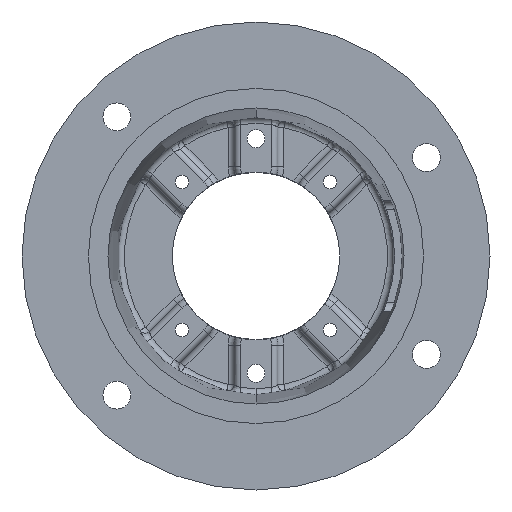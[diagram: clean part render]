
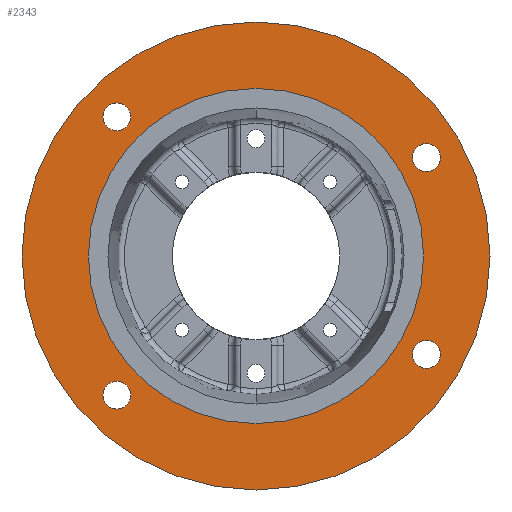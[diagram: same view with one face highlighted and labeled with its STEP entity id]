
A CAD part, front view. The second image highlights one B-rep face of the part: STEP entity #2343.
In plain terms, the highlighted planar face has unit normal (0, -1, 0).
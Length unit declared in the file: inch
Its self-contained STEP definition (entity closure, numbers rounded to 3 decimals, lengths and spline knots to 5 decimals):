
#25 = VERTEX_POINT ( 'NONE', #2248 ) ;
#189 = VERTEX_POINT ( 'NONE', #1867 ) ;
#232 = CARTESIAN_POINT ( 'NONE',  ( -3.27037, 0., -3.27037 ) ) ;
#305 = VERTEX_POINT ( 'NONE', #1171 ) ;
#375 = AXIS2_PLACEMENT_3D ( 'NONE', #10249, #3649, #11339 ) ;
#772 = DIRECTION ( 'NONE',  ( 0., 0., -1. ) ) ;
#849 = DIRECTION ( 'NONE',  ( 0., -1., 0. ) ) ;
#1156 = DIRECTION ( 'NONE',  ( 0., 0., -1. ) ) ;
#1171 = CARTESIAN_POINT ( 'NONE',  ( 4.00537, 0., -2.64063 ) ) ;
#1391 = DIRECTION ( 'NONE',  ( 0., 0., -1. ) ) ;
#1416 = AXIS2_PLACEMENT_3D ( 'NONE', #14400, #7903, #1156 ) ;
#1867 = CARTESIAN_POINT ( 'NONE',  ( 0., 0., 3.9385 ) ) ;
#2086 = VERTEX_POINT ( 'NONE', #2184 ) ;
#2184 = CARTESIAN_POINT ( 'NONE',  ( 4.00537, 0., 2.64062 ) ) ;
#2191 = EDGE_CURVE ( 'NONE', #9199, #2086, #9641, .T. ) ;
#2248 = CARTESIAN_POINT ( 'NONE',  ( 4.00537, 0., -1.98438 ) ) ;
#2300 = FACE_OUTER_BOUND ( 'NONE', #12906, .T. ) ;
#2327 = ORIENTED_EDGE ( 'NONE', *, *, #12920, .F. ) ;
#2343 = ADVANCED_FACE ( 'NONE', ( #14042, #11134, #2675, #5310, #5655, #2300 ), #10795, .F. ) ;
#2400 = CARTESIAN_POINT ( 'NONE',  ( 0., 0., -5.5 ) ) ;
#2492 = EDGE_CURVE ( 'NONE', #8942, #5468, #6866, .T. ) ;
#2675 = FACE_BOUND ( 'NONE', #13254, .T. ) ;
#2691 = CIRCLE ( 'NONE', #9012, 0.32812 ) ;
#3019 = ORIENTED_EDGE ( 'NONE', *, *, #11502, .T. ) ;
#3032 = CIRCLE ( 'NONE', #3918, 5.5 ) ;
#3107 = DIRECTION ( 'NONE',  ( 0., -1., 0. ) ) ;
#3524 = AXIS2_PLACEMENT_3D ( 'NONE', #4065, #4127, #4166 ) ;
#3649 = DIRECTION ( 'NONE',  ( 0., -1., 0. ) ) ;
#3725 = DIRECTION ( 'NONE',  ( 0., 0., -1. ) ) ;
#3819 = DIRECTION ( 'NONE',  ( 0., -1., 0. ) ) ;
#3866 = CARTESIAN_POINT ( 'NONE',  ( -3.27037, 0., 3.27037 ) ) ;
#3918 = AXIS2_PLACEMENT_3D ( 'NONE', #14058, #7537, #772 ) ;
#3943 = CARTESIAN_POINT ( 'NONE',  ( -3.27037, 0., 3.27037 ) ) ;
#3998 = AXIS2_PLACEMENT_3D ( 'NONE', #7618, #849, #8706 ) ;
#4065 = CARTESIAN_POINT ( 'NONE',  ( 4.00537, 0., 2.3125 ) ) ;
#4127 = DIRECTION ( 'NONE',  ( 0., -1., 0. ) ) ;
#4166 = DIRECTION ( 'NONE',  ( 0., 0., -1. ) ) ;
#4234 = ORIENTED_EDGE ( 'NONE', *, *, #10119, .F. ) ;
#4349 = VERTEX_POINT ( 'NONE', #14095 ) ;
#4519 = EDGE_LOOP ( 'NONE', ( #10305, #10961 ) ) ;
#4741 = AXIS2_PLACEMENT_3D ( 'NONE', #3866, #3819, #3725 ) ;
#4878 = DIRECTION ( 'NONE',  ( 0., -1., 0. ) ) ;
#4970 = CARTESIAN_POINT ( 'NONE',  ( 4.00537, 0., 1.98437 ) ) ;
#5054 = DIRECTION ( 'NONE',  ( 0., 0., -1. ) ) ;
#5199 = DIRECTION ( 'NONE',  ( 0., -1., 0. ) ) ;
#5310 = FACE_BOUND ( 'NONE', #10688, .T. ) ;
#5468 = VERTEX_POINT ( 'NONE', #13693 ) ;
#5593 = VERTEX_POINT ( 'NONE', #6244 ) ;
#5655 = FACE_BOUND ( 'NONE', #13950, .T. ) ;
#5728 = AXIS2_PLACEMENT_3D ( 'NONE', #9737, #3107, #10806 ) ;
#5797 = ORIENTED_EDGE ( 'NONE', *, *, #7189, .F. ) ;
#5855 = VERTEX_POINT ( 'NONE', #2400 ) ;
#6244 = CARTESIAN_POINT ( 'NONE',  ( 0., 0., -3.9385 ) ) ;
#6245 = EDGE_LOOP ( 'NONE', ( #8955, #4234 ) ) ;
#6429 = EDGE_CURVE ( 'NONE', #5468, #8942, #11153, .T. ) ;
#6472 = CARTESIAN_POINT ( 'NONE',  ( -3.27037, 0., -3.27037 ) ) ;
#6476 = EDGE_CURVE ( 'NONE', #2086, #9199, #7242, .T. ) ;
#6866 = CIRCLE ( 'NONE', #4741, 0.32812 ) ;
#7189 = EDGE_CURVE ( 'NONE', #5593, #189, #7582, .T. ) ;
#7242 = CIRCLE ( 'NONE', #12903, 0.32812 ) ;
#7513 = EDGE_CURVE ( 'NONE', #4349, #12043, #8776, .T. ) ;
#7537 = DIRECTION ( 'NONE',  ( 0., -1., 0. ) ) ;
#7582 = CIRCLE ( 'NONE', #1416, 3.9385 ) ;
#7608 = DIRECTION ( 'NONE',  ( 0., 0., -1. ) ) ;
#7618 = CARTESIAN_POINT ( 'NONE',  ( 0., 0., 0. ) ) ;
#7654 = EDGE_CURVE ( 'NONE', #305, #25, #10615, .T. ) ;
#7878 = CIRCLE ( 'NONE', #10796, 0.32812 ) ;
#7884 = EDGE_CURVE ( 'NONE', #5855, #8286, #3032, .T. ) ;
#7903 = DIRECTION ( 'NONE',  ( 0., -1., 0. ) ) ;
#7968 = ORIENTED_EDGE ( 'NONE', *, *, #7513, .F. ) ;
#8136 = DIRECTION ( 'NONE',  ( 0., -1., 0. ) ) ;
#8198 = ORIENTED_EDGE ( 'NONE', *, *, #2492, .F. ) ;
#8286 = VERTEX_POINT ( 'NONE', #8428 ) ;
#8428 = CARTESIAN_POINT ( 'NONE',  ( 0., 0., 5.5 ) ) ;
#8536 = AXIS2_PLACEMENT_3D ( 'NONE', #3943, #11605, #5054 ) ;
#8706 = DIRECTION ( 'NONE',  ( 0., 0., -1. ) ) ;
#8776 = CIRCLE ( 'NONE', #11823, 0.32812 ) ;
#8942 = VERTEX_POINT ( 'NONE', #11684 ) ;
#8955 = ORIENTED_EDGE ( 'NONE', *, *, #7654, .F. ) ;
#9012 = AXIS2_PLACEMENT_3D ( 'NONE', #232, #8136, #1391 ) ;
#9199 = VERTEX_POINT ( 'NONE', #4970 ) ;
#9224 = CIRCLE ( 'NONE', #3998, 5.5 ) ;
#9641 = CIRCLE ( 'NONE', #3524, 0.32812 ) ;
#9737 = CARTESIAN_POINT ( 'NONE',  ( 0., 0., 0. ) ) ;
#9878 = EDGE_CURVE ( 'NONE', #189, #5593, #10253, .T. ) ;
#10069 = ORIENTED_EDGE ( 'NONE', *, *, #6429, .F. ) ;
#10119 = EDGE_CURVE ( 'NONE', #25, #305, #7878, .T. ) ;
#10249 = CARTESIAN_POINT ( 'NONE',  ( 4.00537, 0., -2.3125 ) ) ;
#10253 = CIRCLE ( 'NONE', #5728, 3.9385 ) ;
#10305 = ORIENTED_EDGE ( 'NONE', *, *, #2191, .F. ) ;
#10460 = DIRECTION ( 'NONE',  ( 0., 0., 1. ) ) ;
#10597 = ORIENTED_EDGE ( 'NONE', *, *, #7884, .T. ) ;
#10615 = CIRCLE ( 'NONE', #375, 0.32812 ) ;
#10688 = EDGE_LOOP ( 'NONE', ( #8198, #10069 ) ) ;
#10739 = DIRECTION ( 'NONE',  ( 0., 1., 0. ) ) ;
#10795 = PLANE ( 'NONE',  #13098 ) ;
#10796 = AXIS2_PLACEMENT_3D ( 'NONE', #11446, #4878, #12543 ) ;
#10806 = DIRECTION ( 'NONE',  ( 0., 0., -1. ) ) ;
#10961 = ORIENTED_EDGE ( 'NONE', *, *, #6476, .F. ) ;
#11134 = FACE_BOUND ( 'NONE', #6245, .T. ) ;
#11153 = CIRCLE ( 'NONE', #8536, 0.32812 ) ;
#11184 = CARTESIAN_POINT ( 'NONE',  ( -3.27037, 0., -3.59849 ) ) ;
#11339 = DIRECTION ( 'NONE',  ( 0., 0., -1. ) ) ;
#11446 = CARTESIAN_POINT ( 'NONE',  ( 4.00537, 0., -2.3125 ) ) ;
#11502 = EDGE_CURVE ( 'NONE', #8286, #5855, #9224, .T. ) ;
#11588 = CARTESIAN_POINT ( 'NONE',  ( -5.5, 0., 0. ) ) ;
#11605 = DIRECTION ( 'NONE',  ( 0., -1., 0. ) ) ;
#11684 = CARTESIAN_POINT ( 'NONE',  ( -3.27037, 0., 2.94224 ) ) ;
#11722 = ORIENTED_EDGE ( 'NONE', *, *, #9878, .F. ) ;
#11746 = CARTESIAN_POINT ( 'NONE',  ( 4.00537, 0., 2.3125 ) ) ;
#11823 = AXIS2_PLACEMENT_3D ( 'NONE', #6472, #14113, #7608 ) ;
#12043 = VERTEX_POINT ( 'NONE', #11184 ) ;
#12543 = DIRECTION ( 'NONE',  ( 0., 0., -1. ) ) ;
#12853 = DIRECTION ( 'NONE',  ( 0., 0., -1. ) ) ;
#12903 = AXIS2_PLACEMENT_3D ( 'NONE', #11746, #5199, #12853 ) ;
#12906 = EDGE_LOOP ( 'NONE', ( #10597, #3019 ) ) ;
#12920 = EDGE_CURVE ( 'NONE', #12043, #4349, #2691, .T. ) ;
#13098 = AXIS2_PLACEMENT_3D ( 'NONE', #11588, #10739, #10460 ) ;
#13254 = EDGE_LOOP ( 'NONE', ( #2327, #7968 ) ) ;
#13693 = CARTESIAN_POINT ( 'NONE',  ( -3.27037, 0., 3.59849 ) ) ;
#13950 = EDGE_LOOP ( 'NONE', ( #5797, #11722 ) ) ;
#14042 = FACE_BOUND ( 'NONE', #4519, .T. ) ;
#14058 = CARTESIAN_POINT ( 'NONE',  ( 0., 0., 0. ) ) ;
#14095 = CARTESIAN_POINT ( 'NONE',  ( -3.27037, 0., -2.94224 ) ) ;
#14113 = DIRECTION ( 'NONE',  ( 0., -1., 0. ) ) ;
#14400 = CARTESIAN_POINT ( 'NONE',  ( 0., 0., 0. ) ) ;
